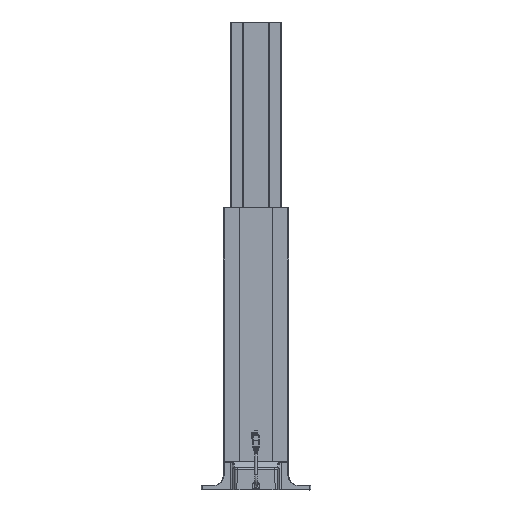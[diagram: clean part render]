
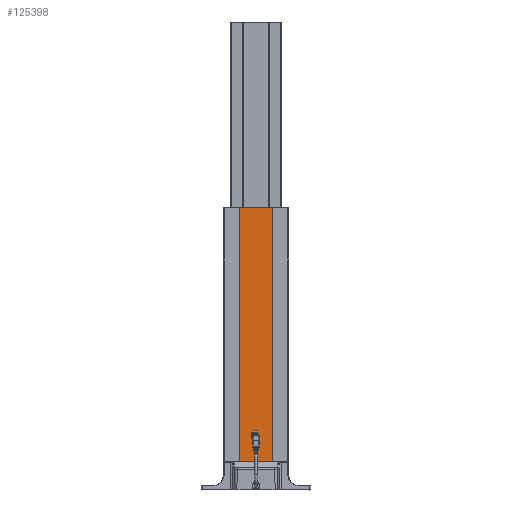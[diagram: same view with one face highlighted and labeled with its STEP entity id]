
A CAD part, top view. The second image highlights one B-rep face of the part: STEP entity #125398.
In plain terms, the highlighted planar face has unit normal (0, 0, 1) as drawn and (0, 1, 0) by its records, which use the part's own axes.
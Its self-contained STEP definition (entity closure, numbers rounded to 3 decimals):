
#34408=ORIENTED_EDGE('',*,*,#50341,.T.);
#34409=ORIENTED_EDGE('',*,*,#50394,.F.);
#34410=ORIENTED_EDGE('',*,*,#50207,.F.);
#34411=ORIENTED_EDGE('',*,*,#50393,.T.);
#50207=EDGE_CURVE('',#59030,#59031,#64194,.T.);
#50341=EDGE_CURVE('',#59165,#59164,#64292,.T.);
#50393=EDGE_CURVE('',#59030,#59165,#64340,.T.);
#50394=EDGE_CURVE('',#59031,#59164,#64341,.T.);
#59030=VERTEX_POINT('',#413104);
#59031=VERTEX_POINT('',#413106);
#59164=VERTEX_POINT('',#413373);
#59165=VERTEX_POINT('',#413375);
#64194=LINE('',#413105,#69138);
#64292=LINE('',#413374,#69236);
#64340=LINE('',#413471,#69284);
#64341=LINE('',#413473,#69285);
#69138=VECTOR('',#151434,1000.);
#69236=VECTOR('',#151606,1000.);
#69284=VECTOR('',#151694,1000.);
#69285=VECTOR('',#151697,1000.);
#75414=EDGE_LOOP('',(#34408,#34409,#34410,#34411));
#81352=FACE_BOUND('',#75414,.T.);
#83263=PLANE('',#133104);
#125398=ADVANCED_FACE('',(#81352),#83263,.F.);
#133104=AXIS2_PLACEMENT_3D('',#413472,#151695,#151696);
#151434=DIRECTION('',(1.,0.,0.));
#151606=DIRECTION('',(1.,0.,0.));
#151694=DIRECTION('',(0.,0.,1.));
#151695=DIRECTION('',(0.,-1.,0.));
#151696=DIRECTION('',(0.,0.,-1.));
#151697=DIRECTION('',(0.,0.,1.));
#413104=CARTESIAN_POINT('',(-37.,29.5,-580.));
#413105=CARTESIAN_POINT('',(-37.,29.5,-580.));
#413106=CARTESIAN_POINT('',(37.,29.5,-580.));
#413373=CARTESIAN_POINT('',(37.,29.5,0.));
#413374=CARTESIAN_POINT('',(-37.,29.5,0.));
#413375=CARTESIAN_POINT('',(-37.,29.5,0.));
#413471=CARTESIAN_POINT('',(-37.,29.5,-580.));
#413472=CARTESIAN_POINT('',(-37.,29.5,-580.));
#413473=CARTESIAN_POINT('',(37.,29.5,-580.));
